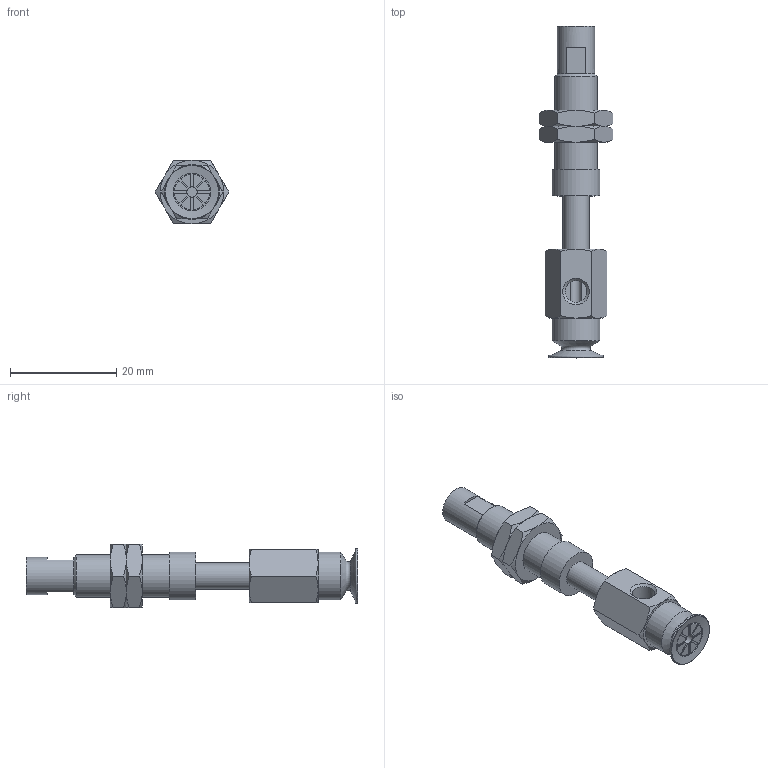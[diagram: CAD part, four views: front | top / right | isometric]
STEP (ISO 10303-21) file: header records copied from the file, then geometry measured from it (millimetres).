
FILE_DESCRIPTION(('STEP AP203'),'1');
FILE_NAME('.stp','2025-02-11T07:15:48',(' '),(' '),'Spatial InterOp 3D',' ',' ');
FILE_SCHEMA(('CONFIG_CONTROL_DESIGN'));
Length unit declared in the file: millimetre
Products named in the file (6): BNABPAYS-10B-10-※; NAPAYS-10A-10--M; NAPAYS-10A-10--F; Nut-10A-S; CONNECTOR-10A-10-PA; BPAG-10B-※_3D
Assembly tree (6 placements, depth 2):
  BNABPAYS-10B-10-※
    NAPAYS-10A-10--M
    NAPAYS-10A-10--F
    Nut-10A-S  x2
    CONNECTOR-10A-10-PA
    BPAG-10B-※_3D
Bounding box: 13.86 x 62.5 x 12 mm (x, y, z)
Volume: 3522.5 mm3; surface area: 4226.4 mm2
Topology: 6 solids, 6 shells, 163 faces, 370 edges, 228 vertices
Faces by surface type: plane 75, cone 51, cylinder 26, torus 11
Full cylindrical faces by diameter (mm): 2 x2, 4 x2, 4.134 x2, 5 x3, 6 x2, 7 x2, 7.188 x2, 8 x1, 9 x2
Entity records: 4226 total; most frequent: CARTESIAN_POINT 961, DIRECTION 630, ORIENTED_EDGE 548, EDGE_CURVE 274, AXIS2_PLACEMENT_3D 263, EDGE_LOOP 198, VERTEX_POINT 192, FACE_OUTER_BOUND 168
